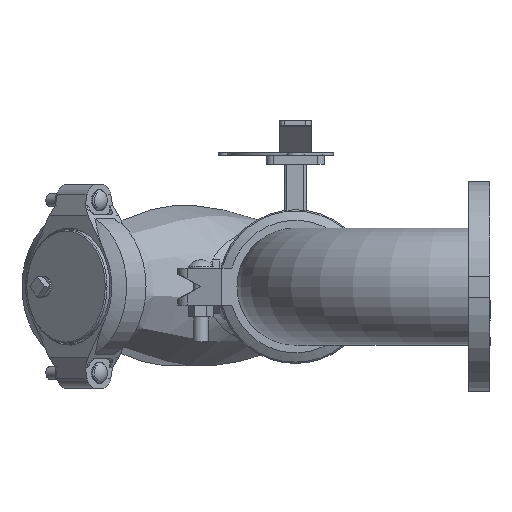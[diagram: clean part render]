
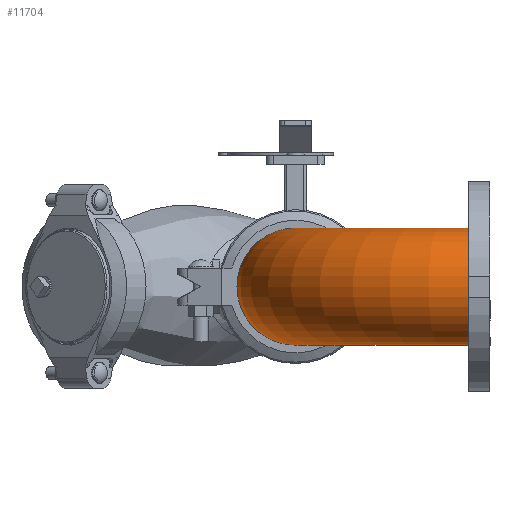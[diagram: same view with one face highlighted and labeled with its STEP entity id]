
A CAD part, front view. The second image highlights one B-rep face of the part: STEP entity #11704.
In plain terms, the highlighted toroidal (fillet/blend) face has major radius 209.55 mm and minor radius 70.65 mm.
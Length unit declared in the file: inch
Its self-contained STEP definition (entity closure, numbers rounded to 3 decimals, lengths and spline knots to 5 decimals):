
#110=TOROIDAL_SURFACE('',#12956,8.25,2.7815);
#2680=FACE_OUTER_BOUND('',#3368,.T.);
#3368=EDGE_LOOP('',(#8625,#8626,#8627,#8628));
#4066=CIRCLE('',#12941,2.7815);
#4069=CIRCLE('',#12945,2.7815);
#4079=CIRCLE('',#12957,5.4685);
#4920=VERTEX_POINT('',#22330);
#4923=VERTEX_POINT('',#22337);
#6253=EDGE_CURVE('',#4920,#4920,#4066,.T.);
#6256=EDGE_CURVE('',#4923,#4923,#4069,.T.);
#6266=EDGE_CURVE('',#4923,#4920,#4079,.T.);
#8625=ORIENTED_EDGE('',*,*,#6256,.T.);
#8626=ORIENTED_EDGE('',*,*,#6266,.T.);
#8627=ORIENTED_EDGE('',*,*,#6253,.F.);
#8628=ORIENTED_EDGE('',*,*,#6266,.F.);
#11704=ADVANCED_FACE('',(#2680),#110,.T.);
#12941=AXIS2_PLACEMENT_3D('',#22331,#15204,#15205);
#12945=AXIS2_PLACEMENT_3D('',#22338,#15212,#15213);
#12956=AXIS2_PLACEMENT_3D('',#22357,#15234,#15235);
#12957=AXIS2_PLACEMENT_3D('',#22358,#15236,#15237);
#15204=DIRECTION('center_axis',(0.,-1.,0.));
#15205=DIRECTION('ref_axis',(-1.,0.,0.));
#15212=DIRECTION('center_axis',(-1.,0.,0.));
#15213=DIRECTION('ref_axis',(0.,1.,0.));
#15234=DIRECTION('center_axis',(0.,0.,-1.));
#15235=DIRECTION('ref_axis',(-1.,0.,0.));
#15236=DIRECTION('center_axis',(0.,0.,1.));
#15237=DIRECTION('ref_axis',(-1.,0.,0.));
#22330=CARTESIAN_POINT('',(2.7815,1.,0.));
#22331=CARTESIAN_POINT('Origin',(0.,1.,0.));
#22337=CARTESIAN_POINT('',(8.25,6.4685,0.));
#22338=CARTESIAN_POINT('Origin',(8.25,9.25,0.));
#22357=CARTESIAN_POINT('Origin',(8.25,1.,0.));
#22358=CARTESIAN_POINT('Origin',(8.25,1.,0.));
